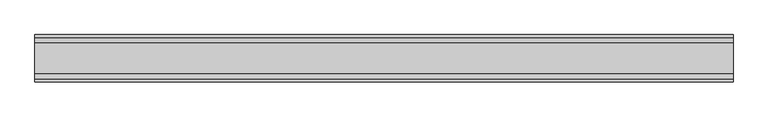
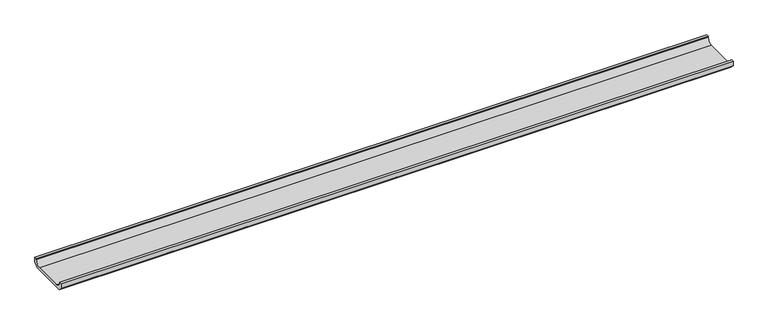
"""IFC4 building model written with IfcOpenShell, lengths in millimetres: proxy geometry, Muestra 2.5m 106 Liso : Muestra 2.5m 106 Liso."""

from ifc_helpers import new_model, si_unit, point, frame, frame_2d, origin, place, context, project, spatial, polyline, circle_curve, trimmed, segment, composite_curve, outline, extrude, source, transform, mapped, element, save


def generic_models_4adef035(model_context):
    return source(origin(), model_context, "Body", "SweptSolid", [
        extrude(outline(composite_curve([segment(polyline([(-3520.065053, -175.3), (-3510.065053, -175.3), (-3510.065053, -179.3)]), True, "CONTINUOUS"), segment(trimmed(circle_curve(frame_2d((-3490.1579597, -177.2918787)), 20.0081213), [point((-3510.065053, -179.3))], [point((-3490.1579597, -197.3))], True, "CARTESIAN"), True, "CONTINUOUS"), segment(polyline([(-3490.1579597, -197.3), (-3379.9721464, -197.3)]), True, "CONTINUOUS"), segment(trimmed(circle_curve(frame_2d((-3379.9721464, -177.2918787)), 20.0081213), [point((-3379.9721464, -197.3))], [point((-3360.065053, -179.3))], True, "CARTESIAN"), True, "CONTINUOUS"), segment(polyline([(-3360.065053, -179.3), (-3360.065053, -175.3), (-3350.065053, -175.3), (-3350.065053, -193.3), (-3364.065053, -207.3), (-3506.065053, -207.3), (-3520.065053, -193.3), (-3520.065053, -175.3)]), True, "CONTINUOUS")], self_intersect=False)), frame((152649.1203404, 0.0, 0.0), z_axis=(1.0, 0.0, 0.0), x_axis=(0.0, 1.0, 0.0)), (0.0, 0.0, 1.0), 2500.0),
    ])


if __name__ == "__main__":
    model = new_model("IFC4")
    model_context = context("Model", 3, world=origin())
    ifc_project = project(units=[si_unit("LENGTHUNIT", "METRE", prefix="MILLI")], contexts=[model_context])
    site = spatial("IfcSite", under=ifc_project)
    building = spatial("IfcBuilding", under=site)
    placement = place(None, origin())
    generic_models_shape = generic_models_4adef035(model_context)
    element("IfcBuildingElementProxy", 1, Name="Muestra 2.5m 106 Liso : Muestra 2.5m 106 Liso", ObjectType="Muestra 2.5m 106 Liso : Muestra 2.5m 106 Liso", at=placement, inside=building, context=model_context, shape_type="MappedRepresentation", body=[
        mapped(generic_models_shape, transform((0.0, 0.0, 0.0), x_axis=(1.0, 0.0, 0.0), y_axis=(0.0, 1.0, 0.0), z_axis=(0.0, 0.0, 1.0))),
    ])
    save(model, "model.ifc")
